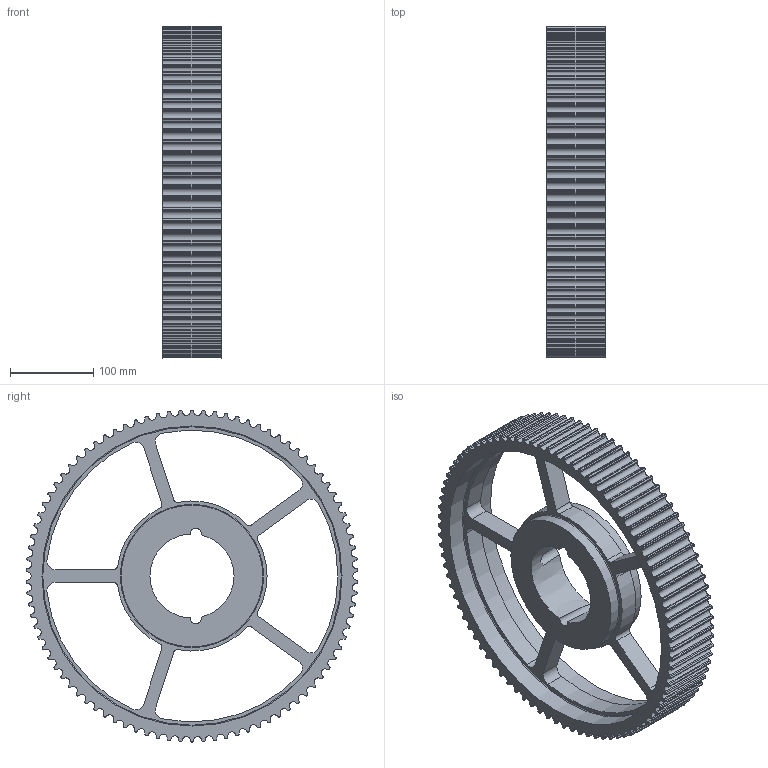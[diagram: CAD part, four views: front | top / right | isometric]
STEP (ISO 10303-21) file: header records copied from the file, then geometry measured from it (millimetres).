
FILE_DESCRIPTION( ( 'STEP AP203' ), '1' );
FILE_NAME( 'C:/Users/Stangenbergd/Documents/CAD_Step/1/17677245.stp', '2020-09-13T18:10:38', ( 'License CC BY-ND 4.0' ), ( 'CADENAS' ), ' ', 'PARTsolutions', ' ' );
FILE_SCHEMA( ( 'CONFIG_CONTROL_DESIGN' ) );
Length unit declared in the file: millimetre
Products named in the file (1): _17677245
Bounding box: 70 x 398.06 x 398.28 mm (x, y, z)
Volume: 2335384.8 mm3; surface area: 361366.3 mm2
Topology: 1 solids, 1 shells, 600 faces, 1778 edges, 1184 vertices
Faces by surface type: cylinder 397, plane 196, torus 4, cone 3
Full cylindrical faces by diameter (mm): 170 x2, 360 x2
Entity records: 20496 total; most frequent: DIRECTION 3768, CARTESIAN_POINT 3604, ORIENTED_EDGE 3540, EDGE_CURVE 1770, AXIS2_PLACEMENT_3D 1404, VERTEX_POINT 1184, LINE 960, VECTOR 960
